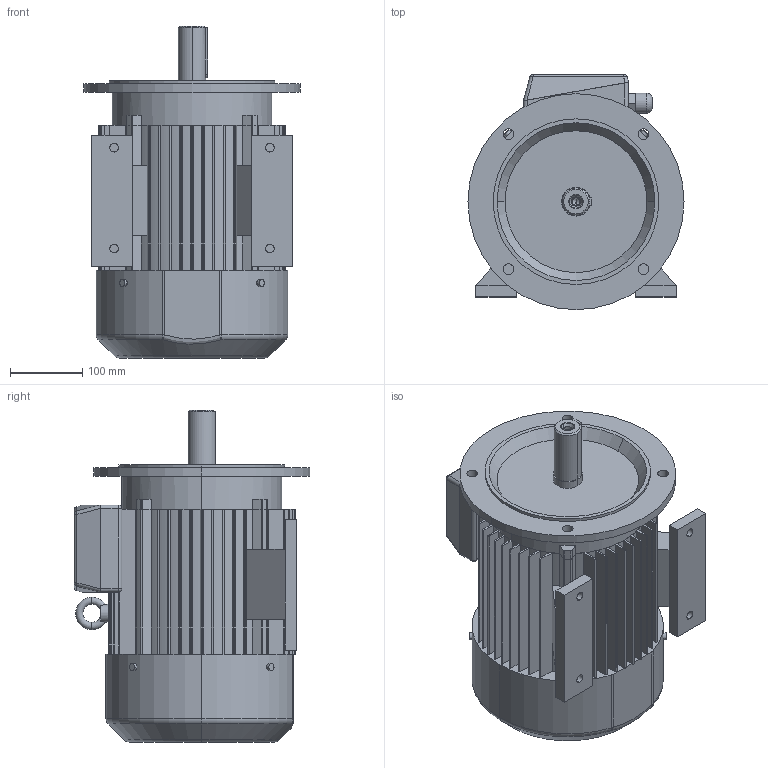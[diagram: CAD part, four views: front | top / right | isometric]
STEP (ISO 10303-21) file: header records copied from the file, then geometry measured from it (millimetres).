
FILE_DESCRIPTION (( 'STEP AP203' ), '1' );
FILE_NAME ('SLg 132S-B35.STEP', '2010-02-09T12:40:31', ( 'INDUKTA' ), ( 'CANTONI MOTOR' ), 'SwSTEP 2.0', 'SolidWorks 2003064', '' );
FILE_SCHEMA (( 'CONFIG_CONTROL_DESIGN' ));
Length unit declared in the file: millimetre
Products named in the file (1): SLg 132S-B35
Bounding box: 300 x 327 x 461 mm (x, y, z)
Volume: 19085854.3 mm3; surface area: 1062438.5 mm2
Topology: 14 solids, 14 shells, 524 faces, 1398 edges, 898 vertices
Faces by surface type: plane 253, cylinder 191, bspline 43, cone 14, torus 13, sphere 10
Entity records: 19945 total; most frequent: CARTESIAN_POINT 6861, ORIENTED_EDGE 2772, DIRECTION 2649, EDGE_CURVE 1386, AXIS2_PLACEMENT_3D 902, VERTEX_POINT 898, LINE 845, VECTOR 845
